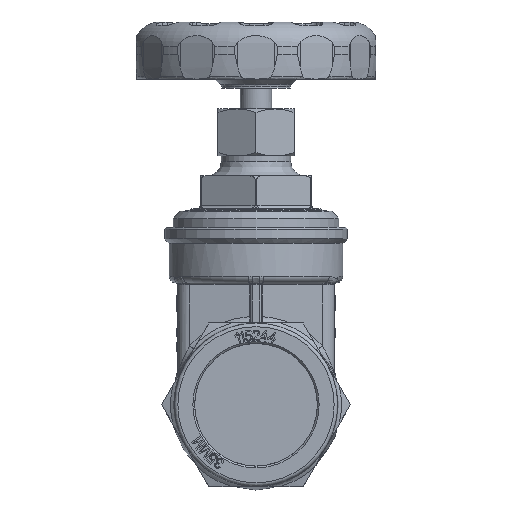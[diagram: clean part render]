
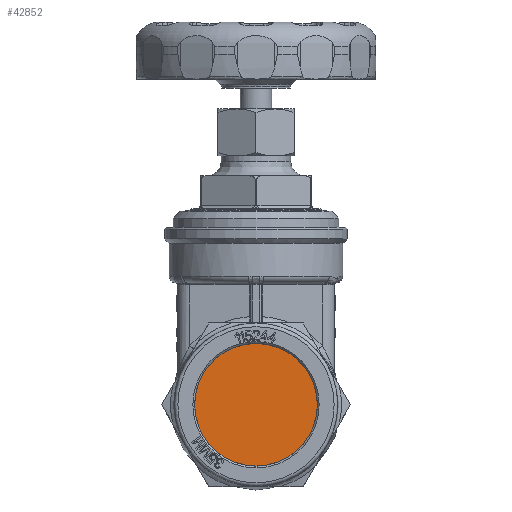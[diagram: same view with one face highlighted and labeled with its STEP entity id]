
A CAD part, left-side view. The second image highlights one B-rep face of the part: STEP entity #42852.
In plain terms, the highlighted planar face has unit normal (-1, 0, 0).
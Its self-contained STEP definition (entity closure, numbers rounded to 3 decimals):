
#42829=CARTESIAN_POINT('',(15.222,-17.612,0.0));
#42830=VERTEX_POINT('',#42829);
#42831=CARTESIAN_POINT('',(15.222,0.0,0.0));
#42832=DIRECTION('',(-1.0,0.0,0.0));
#42833=DIRECTION('',(0.0,-1.0,0.0));
#42834=AXIS2_PLACEMENT_3D('',#42831,#42832,#42833);
#42835=CIRCLE('',#42834,17.612);
#42836=EDGE_CURVE('',#42830,#42830,#42835,.T.);
#42844=CARTESIAN_POINT('',(15.222,-8.806,0.0));
#42845=DIRECTION('',(-1.0,0.0,0.0));
#42846=DIRECTION('',(0.0,0.0,1.0));
#42847=AXIS2_PLACEMENT_3D('',#42844,#42845,#42846);
#42848=PLANE('',#42847);
#42849=ORIENTED_EDGE('',*,*,#42836,.T.);
#42850=EDGE_LOOP('',(#42849));
#42851=FACE_OUTER_BOUND('',#42850,.T.);
#42852=ADVANCED_FACE('',(#42851),#42848,.T.);
